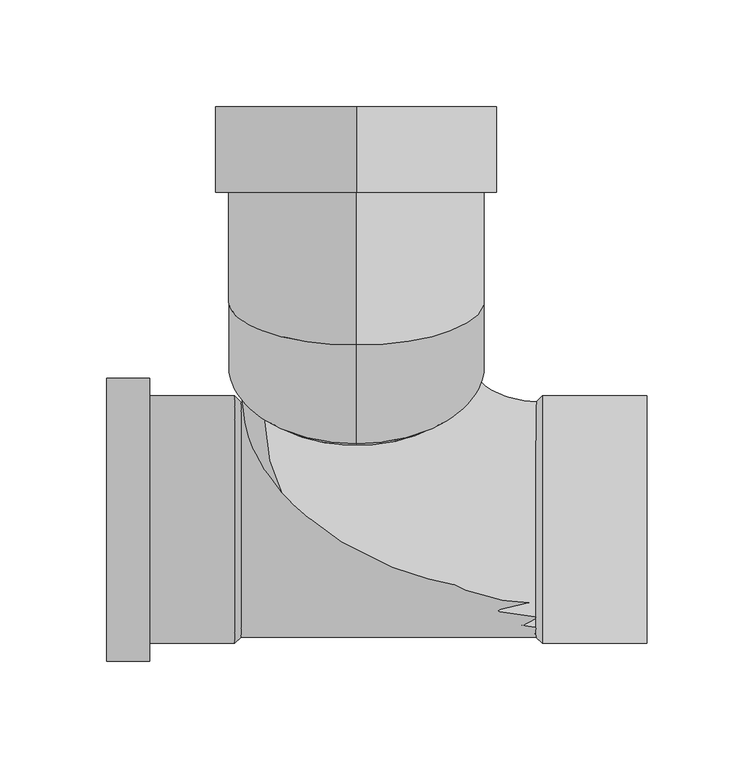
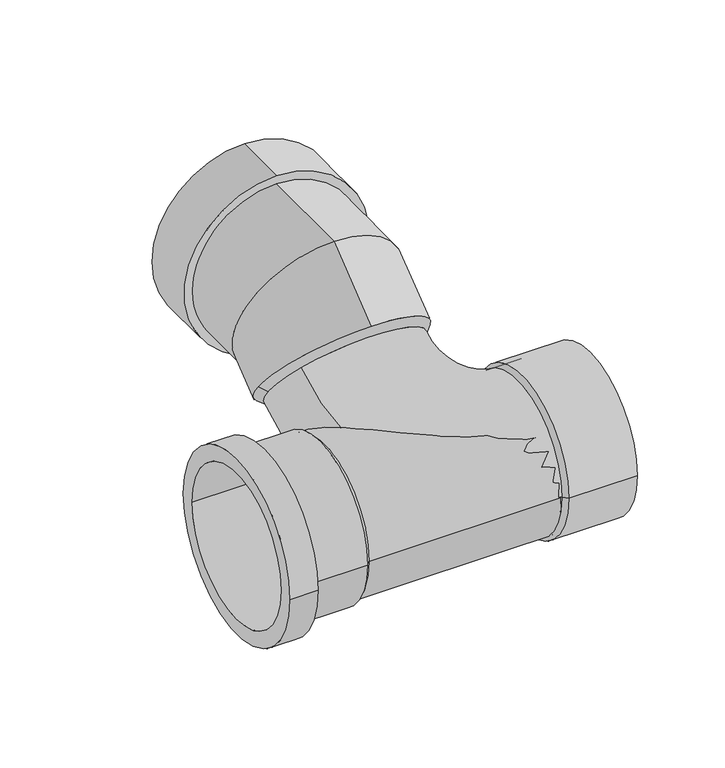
"""IFC4 building model written with IfcOpenShell, lengths in millimetres: pipe fitting geometry, Wavin_PipeAccessory_S&WSPvcBranchWc : 38º."""

from ifc_helpers import new_model, si_unit, point, frame, origin, origin_2d, place, context, project, spatial, polyline, circle_curve, ellipse_curve, trimmed, segment, composite_curve, outline, extrude, source, transform, mapped, element, save
from ifc_brep_helpers import plane_surface, cylinder_surface, revolved_surface, advanced_brep


def pipe_fitting_6d66f02b(model_context):
    return source(origin(), model_context, "Body", "SolidModel", [
        advanced_brep(
        [(-54.1, -55.0, 0.0), (-54.1, 55.0, 0.0), (-117.0, 55.0, 0.0), (-117.0, -55.0, 0.0), (-97.0, -57.9, 0.0), (-97.0, 57.9, 0.0), (-57.0, 57.9, 0.0), (-57.0, -57.9, 0.0), (-117.0, -66.25, 0.0), (-117.0, 66.25, 0.0), (-97.0, 66.25, 0.0), (-97.0, -66.25, 0.0)],
        [
            (0, 1, circle_curve(frame((-54.1, 0.0, 0.0), z_axis=(1.0, 0.0, 0.0), x_axis=(0.0, 1.0000000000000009, 0.0)), 55.0)),
            (1, 2),
            (2, 3, circle_curve(frame((-117.0, 0.0, 0.0), z_axis=(-1.0, 0.0, 0.0), x_axis=(0.0, 1.0000000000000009, 0.0)), 55.0)),
            (3, 0),
            (4, 5, circle_curve(frame((-97.0, 0.0, 0.0), z_axis=(1.0, 0.0, 0.0), x_axis=(0.0, 1.0000000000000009, 0.0)), 57.9)),
            (5, 6),
            (6, 7, circle_curve(frame((-57.0, 0.0, 0.0), z_axis=(-1.0, 0.0, 0.0), x_axis=(0.0, 1.0000000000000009, 0.0)), 57.9)),
            (7, 4),
            (1, 0, circle_curve(frame((-54.1, 0.0, 0.0), z_axis=(1.0, 0.0, 0.0), x_axis=(0.0, -1.0000000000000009, 0.0)), 55.0)),
            (3, 2, circle_curve(frame((-117.0, 0.0, 0.0), z_axis=(-1.0, 0.0, 0.0), x_axis=(0.0, -1.0000000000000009, 0.0)), 55.0)),
            (5, 4, circle_curve(frame((-97.0, 0.0, 0.0), z_axis=(1.0, 0.0, 0.0), x_axis=(0.0, -1.0000000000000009, 0.0)), 57.9)),
            (7, 6, circle_curve(frame((-57.0, 0.0, 0.0), z_axis=(-1.0, 0.0, 0.0), x_axis=(0.0, -1.0000000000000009, 0.0)), 57.9)),
            (8, 9, circle_curve(frame((-117.0, 0.0, 0.0), z_axis=(1.0, 0.0, 0.0), x_axis=(0.0, 1.0000000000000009, 0.0)), 66.25)),
            (9, 10),
            (10, 11, circle_curve(frame((-97.0, 0.0, 0.0), z_axis=(-1.0, 0.0, 0.0), x_axis=(0.0, 1.0000000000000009, 0.0)), 66.25)),
            (11, 8),
            (10, 11, circle_curve(frame((-97.0, 0.0, 0.0), z_axis=(1.0, 0.0, 0.0), x_axis=(0.0, -1.0000000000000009, 0.0)), 66.25)),
            (9, 8, circle_curve(frame((-117.0, 0.0, 0.0), z_axis=(1.0, 0.0, 0.0), x_axis=(0.0, -1.0000000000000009, 0.0)), 66.25)),
            (6, 1),
            (0, 7),
        ],
        [
            revolved_surface(polyline([(-117.00000000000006, 55.00000000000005, 0.0), (-54.1, 55.00000000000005, 0.0)]), (-57.0, 0.0, 0.0), (-1.0000000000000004, 0.0, 0.0)),
            cylinder_surface(frame((-57.0, 0.0, 0.0), z_axis=(-1.0000000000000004, 0.0, 0.0), x_axis=(0.0, 1.0000000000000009, 0.0)), 57.9),
            revolved_surface(polyline([(-117.00000000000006, -55.00000000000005, 0.0), (-54.1, -55.00000000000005, 0.0)]), (-57.0, 0.0, 0.0), (-1.0000000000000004, 0.0, 0.0)),
            cylinder_surface(frame((-57.0, 0.0, 0.0), z_axis=(-1.0000000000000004, 0.0, 0.0), x_axis=(0.0, -1.0000000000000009, 0.0)), 57.9),
            cylinder_surface(frame((-57.0, 0.0, 0.0), z_axis=(-1.0000000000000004, 0.0, 0.0), x_axis=(0.0, 1.0000000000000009, 0.0)), 66.25),
            plane_surface(frame((-97.0, 0.0, 0.0), z_axis=(1.0, 0.0, 0.0), x_axis=(0.0, -1.0, 0.0))),
            cylinder_surface(frame((-57.0, 0.0, 0.0), z_axis=(-1.0000000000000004, 0.0, 0.0), x_axis=(0.0, -1.0000000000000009, 0.0)), 66.25),
            plane_surface(frame((-117.0, 0.0, 0.0), z_axis=(-1.0, 0.0, 0.0), x_axis=(0.0, -1.0, 0.0))),
            revolved_surface(polyline([(-54.1, 55.0, 0.0), (-57.0, 57.9, 0.0)]), (-57.0, 0.0, 0.0), (-1.0000000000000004, 0.0, 0.0)),
            revolved_surface(polyline([(-54.1, -55.0, 0.0), (-57.0, -57.9, 0.0)]), (-57.0, 0.0, 0.0), (-1.0000000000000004, 0.0, 0.0)),
        ],
        [
            (0, [[1, 2, 3, 4]]),
            (1, [[5, 6, 7, 8]]),
            (2, [[9, -4, 10, -2]]),
            (3, [[11, -8, 12, -6]]),
            (4, [[13, 14, 15, 16]]),
            (5, [[17, -15], [-11, -5]]),
            (6, [[18, -16, -17, -14]]),
            (7, [[-18, -13], [-10, -3]]),
            (8, [[-7, 19, -1, 20]]),
            (9, [[-12, -20, -9, -19]]),
        ],
    ),
        advanced_brep(
        [(87.0, 57.9, 0.0), (87.0, -57.9, 0.0), (84.1, -55.0, 0.0), (84.1, 55.0, 0.0), (136.0, 57.9, 0.0), (136.0, -57.9, 0.0), (136.0, -55.0, 0.0), (136.0, 55.0, 0.0)],
        [
            (0, 1, circle_curve(frame((87.0, 0.0, 0.0), z_axis=(-1.0, 0.0, 0.0), x_axis=(0.0, -1.0, 0.0)), 57.9)),
            (1, 2),
            (2, 3, circle_curve(frame((84.1, 0.0, 0.0), z_axis=(1.0, 0.0, 0.0), x_axis=(0.0, -1.0, 0.0)), 55.0)),
            (3, 0),
            (4, 5, circle_curve(frame((136.0, 0.0, 0.0), z_axis=(-1.0, 0.0, 0.0), x_axis=(0.0, -1.0, 0.0)), 57.9)),
            (5, 1),
            (0, 4),
            (2, 6),
            (6, 7, circle_curve(frame((136.0, 0.0, 0.0), z_axis=(1.0, 0.0, 0.0), x_axis=(0.0, -1.0, 0.0)), 55.0)),
            (7, 3),
            (1, 0, circle_curve(frame((87.0, 0.0, 0.0), z_axis=(-1.0, 0.0, 0.0), x_axis=(0.0, 1.0, 0.0)), 57.9)),
            (3, 2, circle_curve(frame((84.1, 0.0, 0.0), z_axis=(1.0, 0.0, 0.0), x_axis=(0.0, 1.0, 0.0)), 55.0)),
            (5, 4, circle_curve(frame((136.0, 0.0, 0.0), z_axis=(-1.0, 0.0, 0.0), x_axis=(0.0, 1.0, 0.0)), 57.9)),
            (6, 7, circle_curve(frame((136.0, 0.0, 0.0), z_axis=(-1.0, 0.0, 0.0), x_axis=(0.0, 1.0, 0.0)), 55.0)),
        ],
        [
            revolved_surface(polyline([(84.1, -55.0, 0.0), (87.0, -57.9, 0.0)]), (87.0, 0.0, 0.0), (1.0, 0.0, 0.0)),
            cylinder_surface(frame((87.0, 0.0, 0.0), z_axis=(1.0, 0.0, 0.0), x_axis=(0.0, -1.0, 0.0)), 57.9),
            revolved_surface(polyline([(136.0, -55.0, 0.0), (84.1, -55.0, 0.0)]), (87.0, 0.0, 0.0), (1.0, 0.0, 0.0)),
            revolved_surface(polyline([(84.1, 55.0, 0.0), (87.0, 57.9, 0.0)]), (87.0, 0.0, 0.0), (1.0, 0.0, 0.0)),
            cylinder_surface(frame((87.0, 0.0, 0.0), z_axis=(1.0, 0.0, 0.0), x_axis=(0.0, 1.0, 0.0)), 57.9),
            plane_surface(frame((136.0, 0.0, 0.0), z_axis=(1.0, 0.0, 0.0), x_axis=(0.0, 1.0, 0.0))),
            revolved_surface(polyline([(136.0, 55.0, 0.0), (84.1, 55.0, 0.0)]), (87.0, 0.0, 0.0), (1.0, 0.0, 0.0)),
        ],
        [
            (0, [[1, 2, 3, 4]]),
            (1, [[5, 6, -1, 7]]),
            (2, [[-3, 8, 9, 10]]),
            (3, [[11, -4, 12, -2]]),
            (4, [[13, -7, -11, -6]]),
            (5, [[-13, -5], [14, -9]]),
            (6, [[-12, -10, -14, -8]]),
        ],
    ),
        advanced_brep(
        [(87.0, 55.0, 0.0), (87.0, -55.0, 0.0), (-43.3405914, 47.7097877, 80.2456808), (-55.0, 68.5569356, 53.5625484), (43.3405914, 89.4040834, 26.8794159), (55.0, 68.5569356, 53.5625484), (0.0, 193.2294087, 14.0), (0.0, 193.2294087, 146.0), (0.0, 193.2294087, 136.5), (0.0, 193.2294087, 23.5), (0.0, 81.7356738, 140.0), (0.0, 123.0549874, 20.0), (0.0, 153.2294087, 20.0), (0.0, 153.2294087, 140.0), (0.0, 35.5573008, 103.9215009), (60.0, 72.4969893, 56.6408557), (0.0, 109.4366779, 9.3602105), (-60.0, 72.4969893, 56.6408557), (0.0, 153.2294087, 14.0), (0.0, 153.2294087, 146.0), (0.0, 123.2294087, 136.5), (0.0, 123.2294087, 23.5)],
        [
            (0, 1, circle_curve(frame((87.0, 0.0, 0.0), z_axis=(-1.0, 0.0, 0.0), x_axis=(0.0, 1.0, 0.0)), 55.0)),
            (1, 2, circle_curve(frame((87.0, 47.7097877, 80.2456808), z_axis=(0.0, 0.6156614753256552, -0.7880107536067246), x_axis=(0.0, -0.7880107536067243, -0.6156614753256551)), 130.3405914)),
            (2, 3, circle_curve(frame((0.0, 68.5569356, 53.5625484), z_axis=(0.0, -0.7880107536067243, -0.6156614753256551), x_axis=(0.7880107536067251, 0.379039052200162, -0.4851478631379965)), 55.0)),
            (3, 4, circle_curve(frame((0.0, 68.5569356, 53.5625484), z_axis=(0.0, -0.7880107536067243, -0.6156614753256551), x_axis=(0.7880107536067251, 0.37903905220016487, -0.48514786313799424)), 55.0)),
            (4, 0, circle_curve(frame((87.0, 89.4040834, 26.8794159), z_axis=(0.0, -0.6156614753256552, 0.7880107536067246), x_axis=(0.0, -0.7880107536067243, -0.6156614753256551)), 43.6594086)),
            (1, 0, circle_curve(frame((87.0, 0.0, 0.0), z_axis=(-1.0, 0.0, 0.0), x_axis=(0.0, 1.0, 0.0)), 55.0)),
            (4, 5, circle_curve(frame((0.0, 68.5569356, 53.5625484), z_axis=(0.0, -0.7880107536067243, -0.6156614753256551), x_axis=(0.7880107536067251, 0.379039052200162, -0.4851478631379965)), 55.0)),
            (5, 2, circle_curve(frame((0.0, 68.5569356, 53.5625484), z_axis=(0.0, -0.7880107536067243, -0.6156614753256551), x_axis=(0.7880107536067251, 0.37903905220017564, -0.48514786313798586)), 55.0)),
            (6, 7, circle_curve(frame((0.0, 193.2294087, 80.0), z_axis=(0.0, 1.0, 0.0), x_axis=(0.0, 0.0, 1.0)), 66.0)),
            (7, 6, circle_curve(frame((0.0, 193.2294087, 80.0), z_axis=(0.0, 1.0, 0.0), x_axis=(0.0, 0.0, 1.0)), 66.0)),
            (8, 9, circle_curve(frame((0.0, 193.2294087, 80.0), z_axis=(0.0, -1.0, 0.0), x_axis=(0.0, 0.0, -1.0)), 56.5)),
            (9, 8, circle_curve(frame((0.0, 193.2294087, 80.0), z_axis=(0.0, -1.0, 0.0), x_axis=(0.0, 0.0, -1.0)), 56.5)),
            (10, 11, ellipse_curve(frame((0.0, 102.3953306, 80.0), z_axis=(0.0, 0.9455185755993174, 0.3255681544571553), x_axis=(0.0, 0.3255681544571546, -0.9455185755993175)), 63.4572409, 60.0)),
            (11, 12),
            (12, 13, circle_curve(frame((0.0, 153.2294087, 80.0), z_axis=(0.0, -1.0, 0.0), x_axis=(0.0, 0.0, -1.0)), 60.0)),
            (13, 10),
            (11, 10, ellipse_curve(frame((0.0, 102.3953306, 80.0), z_axis=(0.0, 0.9455185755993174, 0.3255681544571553), x_axis=(0.0, 0.3255681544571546, -0.9455185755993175)), 63.4572409, 60.0)),
            (13, 12, circle_curve(frame((0.0, 153.2294087, 80.0), z_axis=(0.0, -1.0, 0.0), x_axis=(0.0, 0.0, -1.0)), 60.0)),
            (10, 14),
            (14, 15, circle_curve(frame((0.0, 72.4969893, 56.6408557), z_axis=(0.0, 0.7880107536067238, 0.615661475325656), x_axis=(0.0, 0.615661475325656, -0.7880107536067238)), 60.0)),
            (15, 16, circle_curve(frame((0.0, 72.4969893, 56.6408557), z_axis=(0.0, 0.7880107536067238, 0.615661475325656), x_axis=(0.0, 0.615661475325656, -0.7880107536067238)), 60.0)),
            (16, 11),
            (16, 17, circle_curve(frame((0.0, 72.4969893, 56.6408557), z_axis=(0.0, 0.7880107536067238, 0.615661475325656), x_axis=(0.0, 0.615661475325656, -0.7880107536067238)), 60.0)),
            (17, 14, circle_curve(frame((0.0, 72.4969893, 56.6408557), z_axis=(0.0, 0.7880107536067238, 0.615661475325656), x_axis=(0.0, 0.615661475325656, -0.7880107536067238)), 60.0)),
            (18, 19, circle_curve(frame((0.0, 153.2294087, 80.0), z_axis=(0.0, -1.0, 0.0), x_axis=(0.0, 0.0, 1.0)), 66.0)),
            (19, 18, circle_curve(frame((0.0, 153.2294087, 80.0), z_axis=(0.0, -1.0, 0.0), x_axis=(0.0, 0.0, 1.0)), 66.0)),
            (19, 7),
            (6, 18),
            (20, 21, circle_curve(frame((0.0, 123.2294087, 80.0), z_axis=(0.0, 1.0, 0.0), x_axis=(0.0, 0.0, -1.0)), 56.5)),
            (21, 20, circle_curve(frame((0.0, 123.2294087, 80.0), z_axis=(0.0, 1.0, 0.0), x_axis=(0.0, 0.0, -1.0)), 56.5)),
            (21, 9),
            (8, 20),
            (15, 5),
            (3, 17),
        ],
        [
            revolved_surface(trimmed(ellipse_curve(frame((87.0, 0.0, 0.0), z_axis=(1.0, 0.0, 0.0), x_axis=(0.0, 1.0, 0.0)), 55.0, 55.0), [point((87.0, -55.0, 0.0))], [point((87.0, 55.0, 0.0))], True, "CARTESIAN"), (87.0, 99.3400093, 14.1620107), (0.0, 0.6156614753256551, -0.7880107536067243)),
            revolved_surface(trimmed(ellipse_curve(frame((87.0, 0.0, 0.0), z_axis=(1.0, 0.0, 0.0), x_axis=(0.0, 1.0, 0.0)), 55.0, 55.0), [point((87.0, 55.0, 0.0))], [point((87.0, -55.0, 0.0))], True, "CARTESIAN"), (87.0, 99.3400093, 14.1620107), (0.0, 0.6156614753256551, -0.7880107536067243)),
            plane_surface(frame((0.0, 193.2294087, 80.0), z_axis=(0.0, 1.0, 0.0), x_axis=(1.0, 0.0, 0.0))),
            cylinder_surface(frame((0.0, 193.2294087, 80.0), z_axis=(0.0, 1.0, 0.0), x_axis=(0.0, 0.0, -1.0)), 60.0),
            cylinder_surface(frame((0.0, 102.3953306, 80.0), z_axis=(0.0, 0.7880107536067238, 0.615661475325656), x_axis=(0.0, 0.615661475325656, -0.7880107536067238)), 60.0),
            plane_surface(frame((0.0, 153.2294087, 146.0), z_axis=(0.0, -1.0, 0.0), x_axis=(-1.0, 0.0, 0.0))),
            cylinder_surface(frame((0.0, 153.2294087, 80.0), z_axis=(0.0, 1.0, 0.0), x_axis=(0.0, 0.0, 1.0)), 66.0),
            plane_surface(frame((0.0, 123.2294087, 23.5), z_axis=(0.0, 1.0, 0.0), x_axis=(1.0, 0.0, 0.0))),
            revolved_surface(polyline([(0.0, 123.2294087, 23.5), (0.0, 193.2294087, 23.5)]), (0.0, 193.2294087, 80.0), (0.0, -1.0, 0.0)),
            revolved_surface(polyline([(-60.0, 72.4969893, 56.6408557), (-55.0, 68.5569356, 53.5625484)]), (0.0, 68.5569356, 53.5625484), (0.0, -0.788010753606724, -0.6156614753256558)),
            revolved_surface(polyline([(60.0, 72.4969893, 56.6408557), (55.0, 68.5569356, 53.5625484)]), (0.0, 68.5569356, 53.5625484), (0.0, -0.788010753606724, -0.6156614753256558)),
            plane_surface(frame((87.0, 99.3400093, 14.1620107), z_axis=(1.0, 0.0, 0.0), x_axis=(0.0, -0.7880107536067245, -0.6156614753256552))),
        ],
        [
            (0, [[1, 2, 3, 4, 5]]),
            (1, [[6, -5, 7, 8, -2]]),
            (2, [[9, 10], [11, 12]]),
            (3, [[13, 14, 15, 16]]),
            (3, [[17, -16, 18, -14]]),
            (4, [[-13, 19, 20, 21, 22]]),
            (4, [[-17, -22, 23, 24, -19]]),
            (5, [[25, 26], [-15, -18]]),
            (6, [[-26, 27, -9, 28]]),
            (6, [[-25, -28, -10, -27]]),
            (7, [[29, 30]]),
            (8, [[-30, 31, -11, 32]]),
            (8, [[-29, -32, -12, -31]]),
            (9, [[33, -7, -4, 34, -23, -21]]),
            (10, [[-33, -20, -24, -34, -3, -8]]),
            (11, [[-1, -6]]),
        ],
    ),
        extrude(outline(composite_curve([segment(trimmed(circle_curve(origin_2d(), 55.0), [point((-55.0, 0.0))], [point((55.0, 0.0))], False, "CARTESIAN"), True, "CONTINUOUS"), segment(trimmed(circle_curve(origin_2d(), 55.0), [point((55.0, 0.0))], [point((-55.0, 0.0))], False, "CARTESIAN"), True, "CONTINUOUS")], self_intersect=False)), frame((-57.0, 0.0, 0.0), z_axis=(1.0, 0.0, 0.0), x_axis=(0.0, 1.0, 0.0)), (0.0, 0.0, 1.0), 144.0),
    ])


if __name__ == "__main__":
    model = new_model("IFC4")
    model_context = context("Model", 3, world=origin())
    ifc_project = project(units=[si_unit("LENGTHUNIT", "METRE", prefix="MILLI")], contexts=[model_context])
    site = spatial("IfcSite", under=ifc_project)
    building = spatial("IfcBuilding", under=site)
    placement = place(None, origin())
    pipe_fitting_shape = pipe_fitting_6d66f02b(model_context)
    element("IfcPipeFitting", 1, ObjectType="Wavin_PipeAccessory_S&WSPvcBranchWc : 38º", at=placement, inside=building, context=model_context, shape_type="MappedRepresentation", body=[
        mapped(pipe_fitting_shape, transform((0.0, 0.0, 0.0), x_axis=(1.0, 0.0, 0.0), y_axis=(0.0, 1.0, 0.0), z_axis=(0.0, 0.0, 1.0))),
    ])
    save(model, "model.ifc")
